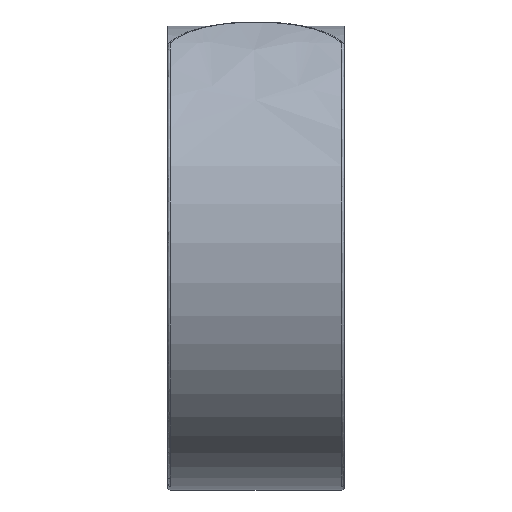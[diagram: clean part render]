
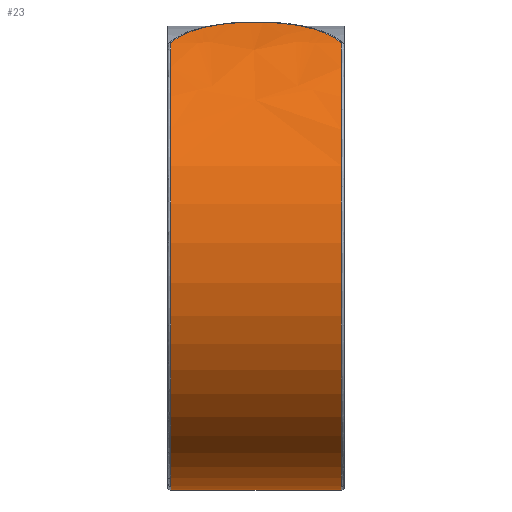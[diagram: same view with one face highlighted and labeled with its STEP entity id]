
A CAD part, left-side view. The second image highlights one B-rep face of the part: STEP entity #23.
In plain terms, the highlighted free-form (B-spline) face has degree [1, 3] with [2, 11] control points.
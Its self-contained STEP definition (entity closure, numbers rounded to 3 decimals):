
#23=ADVANCED_FACE('',(#42),#268,.T.);
#42=FACE_OUTER_BOUND('',#63,.T.);
#63=EDGE_LOOP('',(#106,#107,#108,#109));
#106=ORIENTED_EDGE('',*,*,#179,.T.);
#107=ORIENTED_EDGE('',*,*,#175,.T.);
#108=ORIENTED_EDGE('',*,*,#173,.F.);
#109=ORIENTED_EDGE('',*,*,#186,.F.);
#173=EDGE_CURVE('',#257,#256,#210,.T.);
#175=EDGE_CURVE('',#255,#256,#219,.T.);
#179=EDGE_CURVE('',#254,#255,#222,.T.);
#186=EDGE_CURVE('',#254,#257,#228,.T.);
#210=B_SPLINE_CURVE_WITH_KNOTS('',1,(#1191,#1192),.UNSPECIFIED.,.F.,.F.,
(2,2),(0.15,8.3),.UNSPECIFIED.);
#219=(
BOUNDED_CURVE()
B_SPLINE_CURVE(3,(#1205,#1206,#1207,#1208,#1209,#1210,#1211,#1212,#1213,
#1214,#1215,#1216,#1217,#1218,#1219,#1220,#1221,#1222,#1223,#1224,#1225,
#1226,#1227,#1228,#1229,#1230,#1231,#1232),.UNSPECIFIED.,.F.,.F.)
B_SPLINE_CURVE_WITH_KNOTS((4,3,3,3,3,3,3,3,3,4),(0.045,1.265,
3.246,5.227,7.636,10.044,14.867,
19.689,24.546,29.403),.UNSPECIFIED.)
CURVE()
GEOMETRIC_REPRESENTATION_ITEM()
RATIONAL_B_SPLINE_CURVE((1.,1.,1.,1.,1.,1.,1.,1.,1.,1.,1.,1.,1.,1.,1.,1.,
1.,1.,1.,1.,
1.,1.,1.,1.,
1.,1.,1.,1.))
REPRESENTATION_ITEM('')
);
#222=(
BOUNDED_CURVE()
B_SPLINE_CURVE(3,(#1276,#1277,#1278,#1279,#1280,#1281,#1282,#1283,#1284,
#1285,#1286,#1287,#1288,#1289,#1290,#1291,#1292,#1293,#1294),
 .UNSPECIFIED.,.F.,.F.)
B_SPLINE_CURVE_WITH_KNOTS((4,3,3,3,3,3,4),(0.04,1.163,
3.049,4.773,6.498,8.384,9.507),
 .UNSPECIFIED.)
CURVE()
GEOMETRIC_REPRESENTATION_ITEM()
RATIONAL_B_SPLINE_CURVE((1.,1.,1.,1.,1.,1.,
1.,1.,1.,1.,1.,1.,1.,1.,1.,1.,1.,1.,1.))
REPRESENTATION_ITEM('')
);
#228=(
BOUNDED_CURVE()
B_SPLINE_CURVE(3,(#1379,#1380,#1381,#1382,#1383,#1384,#1385,#1386,#1387,
#1388,#1389,#1390,#1391,#1392,#1393,#1394,#1395,#1396,#1397,#1398,#1399,
#1400,#1401,#1402,#1403,#1404,#1405,#1406),.UNSPECIFIED.,.F.,.F.)
B_SPLINE_CURVE_WITH_KNOTS((4,3,3,3,3,3,3,3,3,4),(0.045,1.265,
3.246,5.227,7.636,10.044,14.867,
19.689,24.546,29.403),.UNSPECIFIED.)
CURVE()
GEOMETRIC_REPRESENTATION_ITEM()
RATIONAL_B_SPLINE_CURVE((1.,1.,1.,1.,1.,1.,1.,1.,1.,1.,1.,1.,1.,1.,1.,
1.,1.,1.,1.,1.,1.,1.,
1.,1.,1.,1.,
1.,1.))
REPRESENTATION_ITEM('')
);
#254=VERTEX_POINT('',#969);
#255=VERTEX_POINT('',#970);
#256=VERTEX_POINT('',#971);
#257=VERTEX_POINT('',#972);
#268=B_SPLINE_SURFACE_WITH_KNOTS('',1,3,((#501,#502,#503,#504,#505,#506,
#507,#508,#509,#510,#511),(#512,#513,#514,#515,#516,#517,#518,#519,#520,
#521,#522)),.UNSPECIFIED.,.F.,.F.,.F.,(2,2),(4,1,1,1,1,1,1,1,4),(0.,8.45),
(0.,4.401,9.17,13.938,18.339,
22.74,27.509,32.277,36.678),
 .UNSPECIFIED.);
#501=CARTESIAN_POINT('',(0.,-4.225,12.1));
#502=CARTESIAN_POINT('',(-1.467,-4.225,12.101));
#503=CARTESIAN_POINT('',(-4.523,-4.225,11.517));
#504=CARTESIAN_POINT('',(-8.488,-4.225,8.913));
#505=CARTESIAN_POINT('',(-11.092,-4.225,4.948));
#506=CARTESIAN_POINT('',(-11.955,-4.225,0.425));
#507=CARTESIAN_POINT('',(-11.092,-4.225,-4.098));
#508=CARTESIAN_POINT('',(-8.488,-4.225,-8.063));
#509=CARTESIAN_POINT('',(-4.523,-4.225,-10.667));
#510=CARTESIAN_POINT('',(-1.467,-4.225,-11.251));
#511=CARTESIAN_POINT('',(0.,-4.225,-11.25));
#512=CARTESIAN_POINT('',(0.,4.225,12.1));
#513=CARTESIAN_POINT('',(-1.467,4.225,12.101));
#514=CARTESIAN_POINT('',(-4.523,4.225,11.517));
#515=CARTESIAN_POINT('',(-8.488,4.225,8.913));
#516=CARTESIAN_POINT('',(-11.092,4.225,4.948));
#517=CARTESIAN_POINT('',(-11.955,4.225,0.425));
#518=CARTESIAN_POINT('',(-11.092,4.225,-4.098));
#519=CARTESIAN_POINT('',(-8.488,4.225,-8.063));
#520=CARTESIAN_POINT('',(-4.523,4.225,-10.667));
#521=CARTESIAN_POINT('',(-1.467,4.225,-11.251));
#522=CARTESIAN_POINT('',(0.,4.225,-11.25));
#969=CARTESIAN_POINT('',(-6.536,-4.075,10.098));
#970=CARTESIAN_POINT('',(-6.536,4.075,10.098));
#971=CARTESIAN_POINT('',(0.,4.075,-11.25));
#972=CARTESIAN_POINT('',(0.,-4.075,-11.25));
#1191=CARTESIAN_POINT('',(0.,-4.075,-11.25));
#1192=CARTESIAN_POINT('',(0.,4.075,-11.25));
#1205=CARTESIAN_POINT('',(-6.536,4.075,10.098));
#1206=CARTESIAN_POINT('',(-6.877,4.075,9.868));
#1207=CARTESIAN_POINT('',(-7.206,4.075,9.619));
#1208=CARTESIAN_POINT('',(-7.521,4.075,9.354));
#1209=CARTESIAN_POINT('',(-8.033,4.075,8.923));
#1210=CARTESIAN_POINT('',(-8.508,4.075,8.448));
#1211=CARTESIAN_POINT('',(-8.938,4.075,7.936));
#1212=CARTESIAN_POINT('',(-9.368,4.075,7.423));
#1213=CARTESIAN_POINT('',(-9.754,4.075,6.874));
#1214=CARTESIAN_POINT('',(-10.091,4.075,6.296));
#1215=CARTESIAN_POINT('',(-10.5,4.075,5.593));
#1216=CARTESIAN_POINT('',(-10.835,4.075,4.847));
#1217=CARTESIAN_POINT('',(-11.09,4.075,4.075));
#1218=CARTESIAN_POINT('',(-11.344,4.075,3.302));
#1219=CARTESIAN_POINT('',(-11.518,4.075,2.503));
#1220=CARTESIAN_POINT('',(-11.606,4.075,1.695));
#1221=CARTESIAN_POINT('',(-11.783,4.075,0.076));
#1222=CARTESIAN_POINT('',(-11.616,4.075,-1.58));
#1223=CARTESIAN_POINT('',(-11.121,4.075,-3.131));
#1224=CARTESIAN_POINT('',(-10.625,4.075,-4.682));
#1225=CARTESIAN_POINT('',(-9.799,4.075,-6.128));
#1226=CARTESIAN_POINT('',(-8.716,4.075,-7.343));
#1227=CARTESIAN_POINT('',(-7.624,4.075,-8.567));
#1228=CARTESIAN_POINT('',(-6.272,4.075,-9.558));
#1229=CARTESIAN_POINT('',(-4.776,4.075,-10.229));
#1230=CARTESIAN_POINT('',(-3.28,4.075,-10.9));
#1231=CARTESIAN_POINT('',(-1.64,4.075,-11.252));
#1232=CARTESIAN_POINT('',(0.,4.075,-11.25));
#1276=CARTESIAN_POINT('',(-6.536,-4.075,10.098));
#1277=CARTESIAN_POINT('',(-6.271,-3.874,10.277));
#1278=CARTESIAN_POINT('',(-6.025,-3.623,10.427));
#1279=CARTESIAN_POINT('',(-5.81,-3.34,10.55));
#1280=CARTESIAN_POINT('',(-5.45,-2.865,10.758));
#1281=CARTESIAN_POINT('',(-5.174,-2.298,10.892));
#1282=CARTESIAN_POINT('',(-5.,-1.699,10.974));
#1283=CARTESIAN_POINT('',(-4.842,-1.151,11.05));
#1284=CARTESIAN_POINT('',(-4.768,-0.575,11.082));
#1285=CARTESIAN_POINT('',(-4.768,0.,11.082));
#1286=CARTESIAN_POINT('',(-4.768,0.575,11.082));
#1287=CARTESIAN_POINT('',(-4.842,1.151,11.05));
#1288=CARTESIAN_POINT('',(-5.,1.699,10.974));
#1289=CARTESIAN_POINT('',(-5.174,2.298,10.892));
#1290=CARTESIAN_POINT('',(-5.45,2.865,10.758));
#1291=CARTESIAN_POINT('',(-5.81,3.34,10.55));
#1292=CARTESIAN_POINT('',(-6.025,3.623,10.427));
#1293=CARTESIAN_POINT('',(-6.271,3.874,10.277));
#1294=CARTESIAN_POINT('',(-6.536,4.075,10.098));
#1379=CARTESIAN_POINT('',(-6.536,-4.075,10.098));
#1380=CARTESIAN_POINT('',(-6.877,-4.075,9.868));
#1381=CARTESIAN_POINT('',(-7.206,-4.075,9.619));
#1382=CARTESIAN_POINT('',(-7.521,-4.075,9.354));
#1383=CARTESIAN_POINT('',(-8.033,-4.075,8.923));
#1384=CARTESIAN_POINT('',(-8.508,-4.075,8.448));
#1385=CARTESIAN_POINT('',(-8.938,-4.075,7.936));
#1386=CARTESIAN_POINT('',(-9.368,-4.075,7.423));
#1387=CARTESIAN_POINT('',(-9.754,-4.075,6.874));
#1388=CARTESIAN_POINT('',(-10.091,-4.075,6.296));
#1389=CARTESIAN_POINT('',(-10.5,-4.075,5.593));
#1390=CARTESIAN_POINT('',(-10.835,-4.075,4.847));
#1391=CARTESIAN_POINT('',(-11.09,-4.075,4.075));
#1392=CARTESIAN_POINT('',(-11.344,-4.075,3.302));
#1393=CARTESIAN_POINT('',(-11.518,-4.075,2.503));
#1394=CARTESIAN_POINT('',(-11.606,-4.075,1.695));
#1395=CARTESIAN_POINT('',(-11.783,-4.075,0.076));
#1396=CARTESIAN_POINT('',(-11.616,-4.075,-1.58));
#1397=CARTESIAN_POINT('',(-11.121,-4.075,-3.131));
#1398=CARTESIAN_POINT('',(-10.625,-4.075,-4.682));
#1399=CARTESIAN_POINT('',(-9.799,-4.075,-6.128));
#1400=CARTESIAN_POINT('',(-8.716,-4.075,-7.343));
#1401=CARTESIAN_POINT('',(-7.624,-4.075,-8.567));
#1402=CARTESIAN_POINT('',(-6.272,-4.075,-9.558));
#1403=CARTESIAN_POINT('',(-4.776,-4.075,-10.229));
#1404=CARTESIAN_POINT('',(-3.28,-4.075,-10.9));
#1405=CARTESIAN_POINT('',(-1.64,-4.075,-11.252));
#1406=CARTESIAN_POINT('',(0.,-4.075,-11.25));
